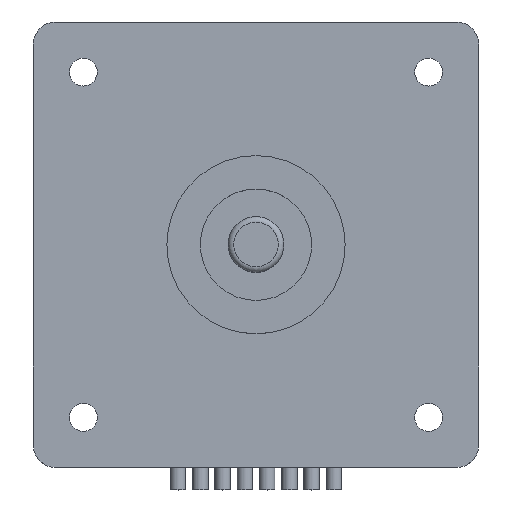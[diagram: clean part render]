
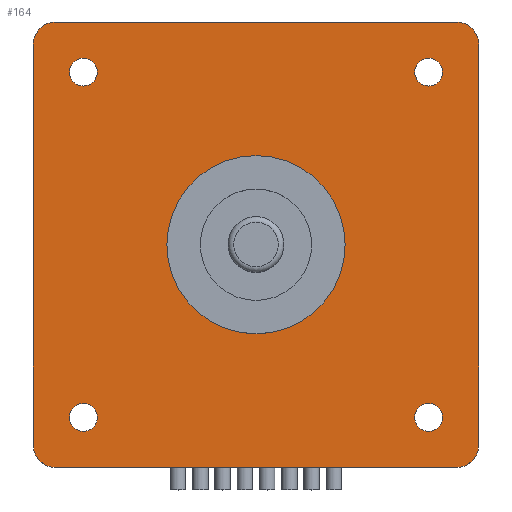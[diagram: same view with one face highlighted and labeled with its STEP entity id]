
A CAD part, top view. The second image highlights one B-rep face of the part: STEP entity #164.
In plain terms, the highlighted planar face has unit normal (0, 0, 1).
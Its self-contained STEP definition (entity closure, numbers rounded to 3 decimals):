
#44=PLANE('',#839);
#81=FACE_BOUND('',#282,.T.);
#82=FACE_BOUND('',#283,.T.);
#83=FACE_BOUND('',#284,.T.);
#84=FACE_BOUND('',#285,.T.);
#85=FACE_BOUND('',#286,.T.);
#86=FACE_BOUND('',#287,.T.);
#164=ADVANCED_FACE('',(#81,#82,#83,#84,#85,#86),#44,.F.);
#282=EDGE_LOOP('',(#494));
#283=EDGE_LOOP('',(#495));
#284=EDGE_LOOP('',(#496));
#285=EDGE_LOOP('',(#497));
#286=EDGE_LOOP('',(#498));
#287=EDGE_LOOP('',(#499,#500,#501,#502,#503,#504,#505,#506));
#382=CIRCLE('',#815,2.);
#383=CIRCLE('',#818,2.);
#392=CIRCLE('',#829,2.);
#393=CIRCLE('',#832,2.);
#394=CIRCLE('',#834,1.25);
#395=CIRCLE('',#835,1.25);
#396=CIRCLE('',#836,1.25);
#397=CIRCLE('',#837,1.25);
#398=CIRCLE('',#838,8.);
#494=ORIENTED_EDGE('',*,*,#716,.T.);
#495=ORIENTED_EDGE('',*,*,#717,.T.);
#496=ORIENTED_EDGE('',*,*,#718,.T.);
#497=ORIENTED_EDGE('',*,*,#719,.T.);
#498=ORIENTED_EDGE('',*,*,#720,.F.);
#499=ORIENTED_EDGE('',*,*,#689,.F.);
#500=ORIENTED_EDGE('',*,*,#715,.F.);
#501=ORIENTED_EDGE('',*,*,#713,.F.);
#502=ORIENTED_EDGE('',*,*,#711,.F.);
#503=ORIENTED_EDGE('',*,*,#706,.F.);
#504=ORIENTED_EDGE('',*,*,#696,.F.);
#505=ORIENTED_EDGE('',*,*,#694,.F.);
#506=ORIENTED_EDGE('',*,*,#692,.F.);
#616=VERTEX_POINT('',#1238);
#617=VERTEX_POINT('',#1239);
#618=VERTEX_POINT('',#1244);
#619=VERTEX_POINT('',#1248);
#620=VERTEX_POINT('',#1252);
#629=VERTEX_POINT('',#1272);
#632=VERTEX_POINT('',#1281);
#633=VERTEX_POINT('',#1285);
#634=VERTEX_POINT('',#1291);
#635=VERTEX_POINT('',#1293);
#636=VERTEX_POINT('',#1295);
#637=VERTEX_POINT('',#1297);
#638=VERTEX_POINT('',#1299);
#689=EDGE_CURVE('',#616,#617,#761,.T.);
#692=EDGE_CURVE('',#617,#618,#382,.T.);
#694=EDGE_CURVE('',#618,#619,#765,.T.);
#696=EDGE_CURVE('',#619,#620,#383,.T.);
#706=EDGE_CURVE('',#620,#629,#768,.T.);
#711=EDGE_CURVE('',#629,#632,#392,.T.);
#713=EDGE_CURVE('',#632,#633,#774,.T.);
#715=EDGE_CURVE('',#633,#616,#393,.T.);
#716=EDGE_CURVE('',#634,#634,#394,.T.);
#717=EDGE_CURVE('',#635,#635,#395,.T.);
#718=EDGE_CURVE('',#636,#636,#396,.T.);
#719=EDGE_CURVE('',#637,#637,#397,.T.);
#720=EDGE_CURVE('',#638,#638,#398,.T.);
#761=LINE('',#1237,#785);
#765=LINE('',#1247,#789);
#768=LINE('',#1271,#792);
#774=LINE('',#1284,#798);
#785=VECTOR('',#949,1.);
#789=VECTOR('',#959,1.);
#792=VECTOR('',#984,1.);
#798=VECTOR('',#996,1.);
#815=AXIS2_PLACEMENT_3D('',#1243,#954,#955);
#818=AXIS2_PLACEMENT_3D('',#1251,#963,#964);
#829=AXIS2_PLACEMENT_3D('',#1280,#991,#992);
#832=AXIS2_PLACEMENT_3D('',#1288,#1000,#1001);
#834=AXIS2_PLACEMENT_3D('',#1290,#1004,#1005);
#835=AXIS2_PLACEMENT_3D('',#1292,#1006,#1007);
#836=AXIS2_PLACEMENT_3D('',#1294,#1008,#1009);
#837=AXIS2_PLACEMENT_3D('',#1296,#1010,#1011);
#838=AXIS2_PLACEMENT_3D('',#1298,#1012,#1013);
#839=AXIS2_PLACEMENT_3D('',#1300,#1014,#1015);
#949=DIRECTION('',(1.,0.,0.));
#954=DIRECTION('',(0.,0.,-1.));
#955=DIRECTION('',(1.,0.,0.));
#959=DIRECTION('',(0.,-1.,0.));
#963=DIRECTION('',(0.,0.,-1.));
#964=DIRECTION('',(1.,0.,0.));
#984=DIRECTION('',(-1.,0.,0.));
#991=DIRECTION('',(0.,0.,-1.));
#992=DIRECTION('',(1.,0.,0.));
#996=DIRECTION('',(0.,1.,0.));
#1000=DIRECTION('',(0.,0.,-1.));
#1001=DIRECTION('',(1.,0.,0.));
#1004=DIRECTION('',(0.,0.,-1.));
#1005=DIRECTION('',(-1.,0.,0.));
#1006=DIRECTION('',(0.,0.,-1.));
#1007=DIRECTION('',(-1.,0.,0.));
#1008=DIRECTION('',(0.,0.,-1.));
#1009=DIRECTION('',(-1.,0.,0.));
#1010=DIRECTION('',(0.,0.,-1.));
#1011=DIRECTION('',(-1.,0.,0.));
#1012=DIRECTION('',(0.,0.,1.));
#1013=DIRECTION('',(1.,0.,0.));
#1014=DIRECTION('',(0.,0.,-1.));
#1015=DIRECTION('',(-1.,0.,0.));
#1237=CARTESIAN_POINT('',(-18.,20.,0.));
#1238=CARTESIAN_POINT('',(-18.,20.,0.));
#1239=CARTESIAN_POINT('',(18.,20.,0.));
#1243=CARTESIAN_POINT('',(18.,18.,0.));
#1244=CARTESIAN_POINT('',(20.,18.,0.));
#1247=CARTESIAN_POINT('',(20.,18.,0.));
#1248=CARTESIAN_POINT('',(20.,-18.,0.));
#1251=CARTESIAN_POINT('',(18.,-18.,0.));
#1252=CARTESIAN_POINT('',(18.,-20.,0.));
#1271=CARTESIAN_POINT('',(18.,-20.,0.));
#1272=CARTESIAN_POINT('',(-18.,-20.,0.));
#1280=CARTESIAN_POINT('',(-18.,-18.,0.));
#1281=CARTESIAN_POINT('',(-20.,-18.,0.));
#1284=CARTESIAN_POINT('',(-20.,-18.,0.));
#1285=CARTESIAN_POINT('',(-20.,18.,0.));
#1288=CARTESIAN_POINT('',(-18.,18.,0.));
#1290=CARTESIAN_POINT('',(15.5,15.5,0.));
#1291=CARTESIAN_POINT('',(14.25,15.5,0.));
#1292=CARTESIAN_POINT('',(15.5,-15.5,0.));
#1293=CARTESIAN_POINT('',(14.25,-15.5,0.));
#1294=CARTESIAN_POINT('',(-15.5,-15.5,0.));
#1295=CARTESIAN_POINT('',(-16.75,-15.5,0.));
#1296=CARTESIAN_POINT('',(-15.5,15.5,0.));
#1297=CARTESIAN_POINT('',(-16.75,15.5,0.));
#1298=CARTESIAN_POINT('',(0.,0.,0.));
#1299=CARTESIAN_POINT('',(8.,0.,0.));
#1300=CARTESIAN_POINT('',(18.,18.,0.));
